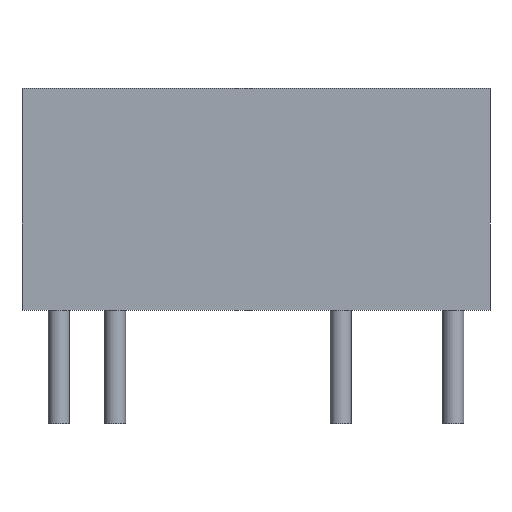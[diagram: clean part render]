
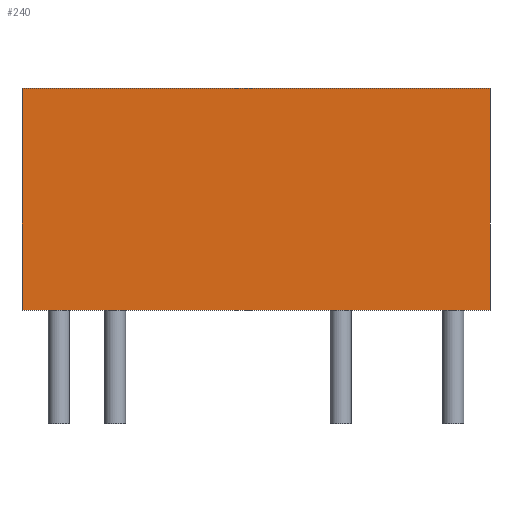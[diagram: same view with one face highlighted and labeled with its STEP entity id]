
A CAD part, front view. The second image highlights one B-rep face of the part: STEP entity #240.
In plain terms, the highlighted planar face has unit normal (0, -1, 0).
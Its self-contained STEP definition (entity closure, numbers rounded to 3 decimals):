
#71 = PLANE('',#72);
#72 = AXIS2_PLACEMENT_3D('',#73,#74,#75);
#73 = CARTESIAN_POINT('',(-10.541,-2.001,0.));
#74 = DIRECTION('',(-1.,0.,0.));
#75 = DIRECTION('',(0.,1.,0.));
#99 = PLANE('',#100);
#100 = AXIS2_PLACEMENT_3D('',#101,#102,#103);
#101 = CARTESIAN_POINT('',(0.,-0.35,10.));
#102 = DIRECTION('',(-0.,0.,-1.));
#103 = DIRECTION('',(0.,-1.,0.));
#127 = PLANE('',#128);
#128 = AXIS2_PLACEMENT_3D('',#129,#130,#131);
#129 = CARTESIAN_POINT('',(10.541,1.301,0.));
#130 = DIRECTION('',(1.,0.,-0.));
#131 = DIRECTION('',(0.,-1.,0.));
#153 = PLANE('',#154);
#154 = AXIS2_PLACEMENT_3D('',#155,#156,#157);
#155 = CARTESIAN_POINT('',(0.,-0.35,0.)
  );
#156 = DIRECTION('',(-0.,0.,-1.));
#157 = DIRECTION('',(0.,-1.,0.));
#170 = VERTEX_POINT('',#171);
#171 = CARTESIAN_POINT('',(10.541,-2.001,10.));
#192 = EDGE_CURVE('',#193,#170,#195,.T.);
#193 = VERTEX_POINT('',#194);
#194 = CARTESIAN_POINT('',(10.541,-2.001,0.));
#195 = SURFACE_CURVE('',#196,(#200,#207),.PCURVE_S1.);
#196 = LINE('',#197,#198);
#197 = CARTESIAN_POINT('',(10.541,-2.001,0.));
#198 = VECTOR('',#199,1.);
#199 = DIRECTION('',(0.,0.,1.));
#200 = PCURVE('',#127,#201);
#201 = DEFINITIONAL_REPRESENTATION('',(#202),#206);
#202 = LINE('',#203,#204);
#203 = CARTESIAN_POINT('',(3.302,0.));
#204 = VECTOR('',#205,1.);
#205 = DIRECTION('',(0.,-1.));
#206 = ( GEOMETRIC_REPRESENTATION_CONTEXT(2) 
PARAMETRIC_REPRESENTATION_CONTEXT() REPRESENTATION_CONTEXT('2D SPACE',''
  ) );
#207 = PCURVE('',#208,#213);
#208 = PLANE('',#209);
#209 = AXIS2_PLACEMENT_3D('',#210,#211,#212);
#210 = CARTESIAN_POINT('',(10.541,-2.001,0.));
#211 = DIRECTION('',(0.,-1.,0.));
#212 = DIRECTION('',(-1.,0.,0.));
#213 = DEFINITIONAL_REPRESENTATION('',(#214),#218);
#214 = LINE('',#215,#216);
#215 = CARTESIAN_POINT('',(0.,-0.));
#216 = VECTOR('',#217,1.);
#217 = DIRECTION('',(0.,-1.));
#218 = ( GEOMETRIC_REPRESENTATION_CONTEXT(2) 
PARAMETRIC_REPRESENTATION_CONTEXT() REPRESENTATION_CONTEXT('2D SPACE',''
  ) );
#240 = ADVANCED_FACE('',(#241),#208,.T.);
#241 = FACE_BOUND('',#242,.T.);
#242 = EDGE_LOOP('',(#243,#244,#267,#290));
#243 = ORIENTED_EDGE('',*,*,#192,.T.);
#244 = ORIENTED_EDGE('',*,*,#245,.T.);
#245 = EDGE_CURVE('',#170,#246,#248,.T.);
#246 = VERTEX_POINT('',#247);
#247 = CARTESIAN_POINT('',(-10.541,-2.001,10.));
#248 = SURFACE_CURVE('',#249,(#253,#260),.PCURVE_S1.);
#249 = LINE('',#250,#251);
#250 = CARTESIAN_POINT('',(10.541,-2.001,10.));
#251 = VECTOR('',#252,1.);
#252 = DIRECTION('',(-1.,0.,0.));
#253 = PCURVE('',#208,#254);
#254 = DEFINITIONAL_REPRESENTATION('',(#255),#259);
#255 = LINE('',#256,#257);
#256 = CARTESIAN_POINT('',(0.,-10.));
#257 = VECTOR('',#258,1.);
#258 = DIRECTION('',(1.,0.));
#259 = ( GEOMETRIC_REPRESENTATION_CONTEXT(2) 
PARAMETRIC_REPRESENTATION_CONTEXT() REPRESENTATION_CONTEXT('2D SPACE',''
  ) );
#260 = PCURVE('',#99,#261);
#261 = DEFINITIONAL_REPRESENTATION('',(#262),#266);
#262 = LINE('',#263,#264);
#263 = CARTESIAN_POINT('',(1.651,-10.541));
#264 = VECTOR('',#265,1.);
#265 = DIRECTION('',(0.,1.));
#266 = ( GEOMETRIC_REPRESENTATION_CONTEXT(2) 
PARAMETRIC_REPRESENTATION_CONTEXT() REPRESENTATION_CONTEXT('2D SPACE',''
  ) );
#267 = ORIENTED_EDGE('',*,*,#268,.F.);
#268 = EDGE_CURVE('',#269,#246,#271,.T.);
#269 = VERTEX_POINT('',#270);
#270 = CARTESIAN_POINT('',(-10.541,-2.001,0.));
#271 = SURFACE_CURVE('',#272,(#276,#283),.PCURVE_S1.);
#272 = LINE('',#273,#274);
#273 = CARTESIAN_POINT('',(-10.541,-2.001,0.));
#274 = VECTOR('',#275,1.);
#275 = DIRECTION('',(0.,0.,1.));
#276 = PCURVE('',#208,#277);
#277 = DEFINITIONAL_REPRESENTATION('',(#278),#282);
#278 = LINE('',#279,#280);
#279 = CARTESIAN_POINT('',(21.082,0.));
#280 = VECTOR('',#281,1.);
#281 = DIRECTION('',(0.,-1.));
#282 = ( GEOMETRIC_REPRESENTATION_CONTEXT(2) 
PARAMETRIC_REPRESENTATION_CONTEXT() REPRESENTATION_CONTEXT('2D SPACE',''
  ) );
#283 = PCURVE('',#71,#284);
#284 = DEFINITIONAL_REPRESENTATION('',(#285),#289);
#285 = LINE('',#286,#287);
#286 = CARTESIAN_POINT('',(0.,0.));
#287 = VECTOR('',#288,1.);
#288 = DIRECTION('',(0.,-1.));
#289 = ( GEOMETRIC_REPRESENTATION_CONTEXT(2) 
PARAMETRIC_REPRESENTATION_CONTEXT() REPRESENTATION_CONTEXT('2D SPACE',''
  ) );
#290 = ORIENTED_EDGE('',*,*,#291,.F.);
#291 = EDGE_CURVE('',#193,#269,#292,.T.);
#292 = SURFACE_CURVE('',#293,(#297,#304),.PCURVE_S1.);
#293 = LINE('',#294,#295);
#294 = CARTESIAN_POINT('',(10.541,-2.001,0.));
#295 = VECTOR('',#296,1.);
#296 = DIRECTION('',(-1.,0.,0.));
#297 = PCURVE('',#208,#298);
#298 = DEFINITIONAL_REPRESENTATION('',(#299),#303);
#299 = LINE('',#300,#301);
#300 = CARTESIAN_POINT('',(0.,-0.));
#301 = VECTOR('',#302,1.);
#302 = DIRECTION('',(1.,0.));
#303 = ( GEOMETRIC_REPRESENTATION_CONTEXT(2) 
PARAMETRIC_REPRESENTATION_CONTEXT() REPRESENTATION_CONTEXT('2D SPACE',''
  ) );
#304 = PCURVE('',#153,#305);
#305 = DEFINITIONAL_REPRESENTATION('',(#306),#310);
#306 = LINE('',#307,#308);
#307 = CARTESIAN_POINT('',(1.651,-10.541));
#308 = VECTOR('',#309,1.);
#309 = DIRECTION('',(0.,1.));
#310 = ( GEOMETRIC_REPRESENTATION_CONTEXT(2) 
PARAMETRIC_REPRESENTATION_CONTEXT() REPRESENTATION_CONTEXT('2D SPACE',''
  ) );
